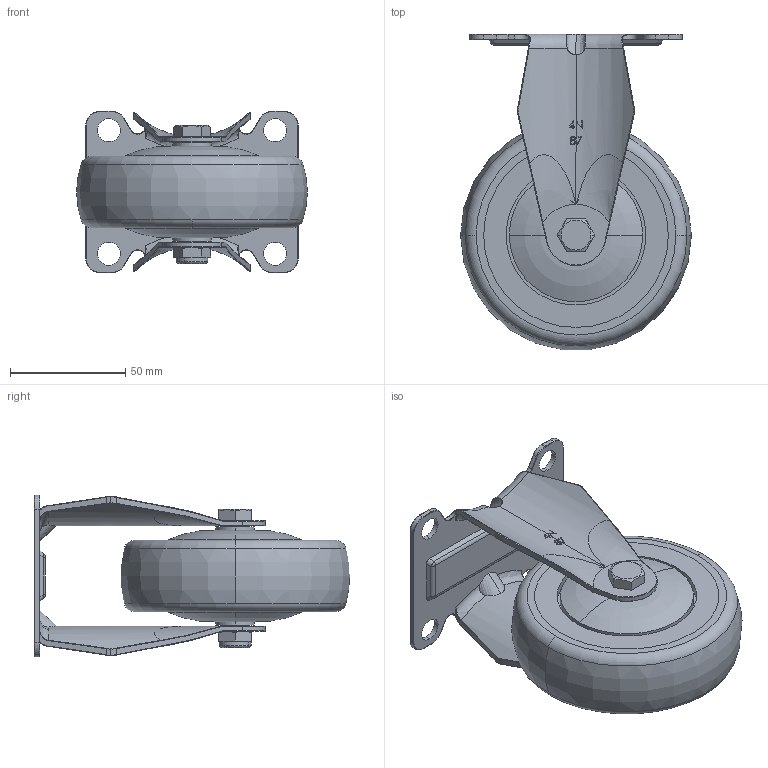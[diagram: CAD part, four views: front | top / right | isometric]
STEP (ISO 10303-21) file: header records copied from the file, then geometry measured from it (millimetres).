
FILE_DESCRIPTION (( 'STEP AP203' ), '1' );
FILE_NAME ('4110604001024-4.STEP', '2024-12-10T09:56:50', ( '' ), ( '' ), 'SwSTEP 2.0', 'SolidWorks 2019', '' );
FILE_SCHEMA (( 'CONFIG_CONTROL_DESIGN' ));
Length unit declared in the file: millimetre
Products named in the file (5): 245020900003 尼龍螺帽; 412460400013 PPR導電輪組(X) 4''''(100x31黑淺灰6202)弧10黑蓋TW; 242020954001 4''''.5''''儀器及高級活動用車心 3 8''''-粗牙(11L)x54L(六角14對邊); 4110604001024-4; 32106010400012 儀器固定架_圓孔01
Assembly tree (4 placements, depth 2):
  4110604001024-4
    242020954001 4''''.5''''儀器及高級活動用車心 3 8''''-粗牙(11L)x54L(六角14對邊)
    245020900003 尼龍螺帽
    32106010400012 儀器固定架_圓孔01
    412460400013 PPR導電輪組(X) 4''''(100x31黑淺灰6202)弧10黑蓋TW
Bounding box: 100 x 136.64 x 70 mm (x, y, z)
Volume: 277458.8 mm3; surface area: 74045.8 mm2
Topology: 5 solids, 5 shells, 348 faces, 867 edges, 530 vertices
Faces by surface type: cylinder 114, bspline 88, plane 62, torus 54, cone 18, sphere 12
Entity records: 15744 total; most frequent: CARTESIAN_POINT 7560, ORIENTED_EDGE 1702, DIRECTION 1514, EDGE_CURVE 851, AXIS2_PLACEMENT_3D 641, VERTEX_POINT 530, EDGE_LOOP 383, CIRCLE 374
